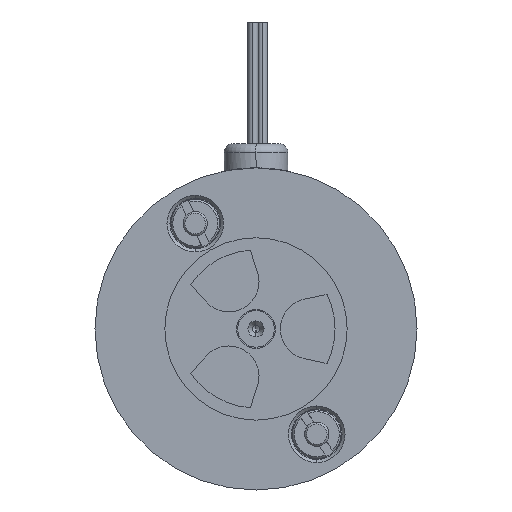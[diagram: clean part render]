
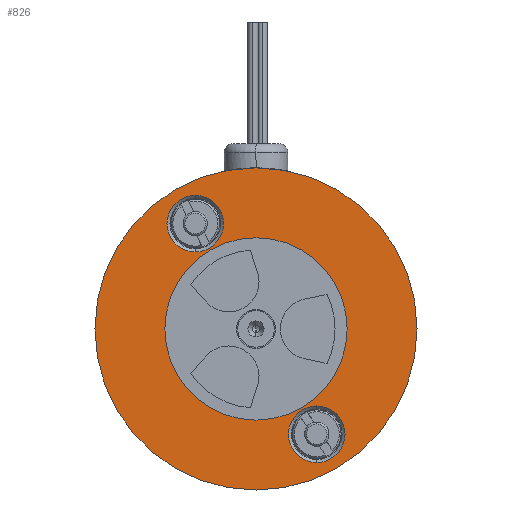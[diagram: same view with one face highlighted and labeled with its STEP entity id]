
A CAD part, left-side view. The second image highlights one B-rep face of the part: STEP entity #826.
In plain terms, the highlighted planar face has unit normal (-1, 0, 0).
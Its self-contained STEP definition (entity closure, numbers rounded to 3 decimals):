
#206 = VERTEX_POINT ( 'NONE', #1866 ) ;
#210 = EDGE_CURVE ( 'NONE', #211, #224, #1860, .T. ) ;
#211 = VERTEX_POINT ( 'NONE', #1855 ) ;
#224 = VERTEX_POINT ( 'NONE', #1810 ) ;
#441 = VERTEX_POINT ( 'NONE', #2440 ) ;
#443 = EDGE_CURVE ( 'NONE', #206, #441, #2439, .T. ) ;
#505 = VERTEX_POINT ( 'NONE', #2688 ) ;
#610 = EDGE_CURVE ( 'NONE', #611, #505, #3043, .T. ) ;
#611 = VERTEX_POINT ( 'NONE', #3038 ) ;
#630 = EDGE_CURVE ( 'NONE', #631, #632, #2982, .T. ) ;
#631 = VERTEX_POINT ( 'NONE', #2977 ) ;
#632 = VERTEX_POINT ( 'NONE', #2976 ) ;
#769 = EDGE_LOOP ( 'NONE', ( #770, #771 ) ) ;
#770 = ORIENTED_EDGE ( 'NONE', *, *, #630, .F. ) ;
#771 = ORIENTED_EDGE ( 'NONE', *, *, #772, .F. ) ;
#772 = EDGE_CURVE ( 'NONE', #632, #631, #3492, .T. ) ;
#773 = EDGE_LOOP ( 'NONE', ( #774, #775 ) ) ;
#774 = ORIENTED_EDGE ( 'NONE', *, *, #610, .T. ) ;
#775 = ORIENTED_EDGE ( 'NONE', *, *, #825, .T. ) ;
#825 = EDGE_CURVE ( 'NONE', #505, #611, #3688, .T. ) ;
#826 = ADVANCED_FACE ( 'NONE', ( #3684, #3683, #3682, #3681 ), #3598, .F. ) ;
#827 = EDGE_LOOP ( 'NONE', ( #953, #954 ) ) ;
#953 = ORIENTED_EDGE ( 'NONE', *, *, #443, .T. ) ;
#954 = ORIENTED_EDGE ( 'NONE', *, *, #955, .T. ) ;
#955 = EDGE_CURVE ( 'NONE', #441, #206, #4011, .T. ) ;
#956 = EDGE_LOOP ( 'NONE', ( #964, #965 ) ) ;
#964 = ORIENTED_EDGE ( 'NONE', *, *, #210, .T. ) ;
#965 = ORIENTED_EDGE ( 'NONE', *, *, #966, .T. ) ;
#966 = EDGE_CURVE ( 'NONE', #224, #211, #3980, .T. ) ;
#1810 = CARTESIAN_POINT ( 'NONE',  ( -72., 10., 12.671 ) ) ;
#1855 = CARTESIAN_POINT ( 'NONE',  ( -72., 10., 21.971 ) ) ;
#1856 = DIRECTION ( 'NONE',  ( 0., 0., -1. ) ) ;
#1857 = DIRECTION ( 'NONE',  ( 1., 0., 0. ) ) ;
#1858 = CARTESIAN_POINT ( 'NONE',  ( -72., 10., 17.321 ) ) ;
#1859 = AXIS2_PLACEMENT_3D ( 'NONE', #1858, #1857, #1856 ) ;
#1860 = CIRCLE ( 'NONE', #1859, 4.65 ) ;
#1866 = CARTESIAN_POINT ( 'NONE',  ( -72., -10., -12.671 ) ) ;
#2435 = DIRECTION ( 'NONE',  ( 0., 0., -1. ) ) ;
#2436 = DIRECTION ( 'NONE',  ( 1., 0., 0. ) ) ;
#2437 = CARTESIAN_POINT ( 'NONE',  ( -72., -10., -17.321 ) ) ;
#2438 = AXIS2_PLACEMENT_3D ( 'NONE', #2437, #2436, #2435 ) ;
#2439 = CIRCLE ( 'NONE', #2438, 4.65 ) ;
#2440 = CARTESIAN_POINT ( 'NONE',  ( -72., -10., -21.971 ) ) ;
#2688 = CARTESIAN_POINT ( 'NONE',  ( -72., 0., -26.5 ) ) ;
#2976 = CARTESIAN_POINT ( 'NONE',  ( -72., 0., -15. ) ) ;
#2977 = CARTESIAN_POINT ( 'NONE',  ( -72., 0., 15. ) ) ;
#2978 = DIRECTION ( 'NONE',  ( 0., 0., 1. ) ) ;
#2979 = DIRECTION ( 'NONE',  ( -1., 0., 0. ) ) ;
#2980 = CARTESIAN_POINT ( 'NONE',  ( -72., 0., 0. ) ) ;
#2981 = AXIS2_PLACEMENT_3D ( 'NONE', #2980, #2979, #2978 ) ;
#2982 = CIRCLE ( 'NONE', #2981, 15. ) ;
#3038 = CARTESIAN_POINT ( 'NONE',  ( -72., 0., 26.5 ) ) ;
#3039 = DIRECTION ( 'NONE',  ( 0., 0., 1. ) ) ;
#3040 = DIRECTION ( 'NONE',  ( -1., 0., 0. ) ) ;
#3041 = CARTESIAN_POINT ( 'NONE',  ( -72., 0., 0. ) ) ;
#3042 = AXIS2_PLACEMENT_3D ( 'NONE', #3041, #3040, #3039 ) ;
#3043 = CIRCLE ( 'NONE', #3042, 26.5 ) ;
#3378 = DIRECTION ( 'NONE',  ( 0., 0., 1. ) ) ;
#3379 = DIRECTION ( 'NONE',  ( -1., 0., 0. ) ) ;
#3490 = CARTESIAN_POINT ( 'NONE',  ( -72., 0., 0. ) ) ;
#3491 = AXIS2_PLACEMENT_3D ( 'NONE', #3490, #3379, #3378 ) ;
#3492 = CIRCLE ( 'NONE', #3491, 15. ) ;
#3593 = DIRECTION ( 'NONE',  ( 0., 0., -1. ) ) ;
#3594 = DIRECTION ( 'NONE',  ( 1., 0., 0. ) ) ;
#3595 = CARTESIAN_POINT ( 'NONE',  ( -72., 26.5, 0. ) ) ;
#3596 = AXIS2_PLACEMENT_3D ( 'NONE', #3595, #3594, #3593 ) ;
#3598 = PLANE ( 'NONE',  #3596 ) ;
#3663 = CARTESIAN_POINT ( 'NONE',  ( -72., 0., 0. ) ) ;
#3681 = FACE_OUTER_BOUND ( 'NONE', #773, .T. ) ;
#3682 = FACE_BOUND ( 'NONE', #769, .T. ) ;
#3683 = FACE_BOUND ( 'NONE', #956, .T. ) ;
#3684 = FACE_BOUND ( 'NONE', #827, .T. ) ;
#3685 = DIRECTION ( 'NONE',  ( 0., 0., 1. ) ) ;
#3686 = DIRECTION ( 'NONE',  ( -1., 0., 0. ) ) ;
#3687 = AXIS2_PLACEMENT_3D ( 'NONE', #3663, #3686, #3685 ) ;
#3688 = CIRCLE ( 'NONE', #3687, 26.5 ) ;
#3980 = CIRCLE ( 'NONE', #4131, 4.65 ) ;
#4002 = DIRECTION ( 'NONE',  ( 0., 0., -1. ) ) ;
#4003 = DIRECTION ( 'NONE',  ( 1., 0., 0. ) ) ;
#4004 = CARTESIAN_POINT ( 'NONE',  ( -72., -10., -17.321 ) ) ;
#4005 = AXIS2_PLACEMENT_3D ( 'NONE', #4004, #4003, #4002 ) ;
#4011 = CIRCLE ( 'NONE', #4005, 4.65 ) ;
#4128 = DIRECTION ( 'NONE',  ( 0., 0., -1. ) ) ;
#4129 = DIRECTION ( 'NONE',  ( 1., 0., 0. ) ) ;
#4130 = CARTESIAN_POINT ( 'NONE',  ( -72., 10., 17.321 ) ) ;
#4131 = AXIS2_PLACEMENT_3D ( 'NONE', #4130, #4129, #4128 ) ;
